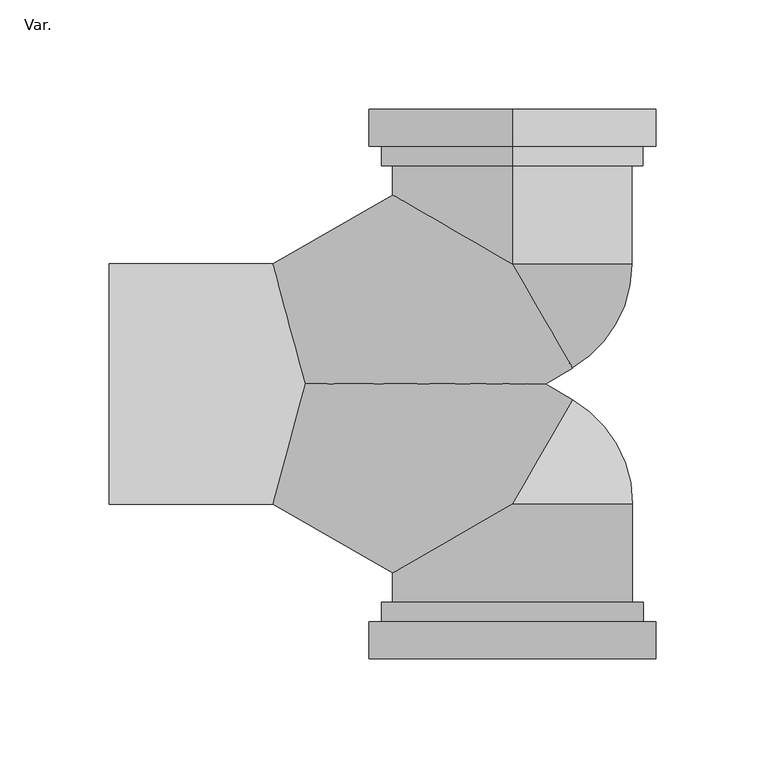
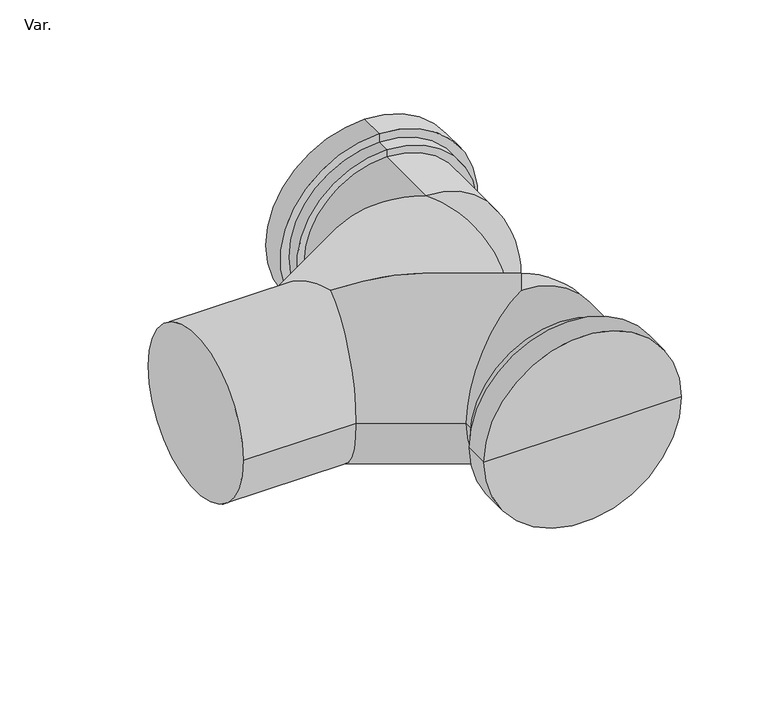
"""IFC4 building model written with IfcOpenShell, lengths in millimetres: pipe fitting geometry, NLRS_52_PIF_UN_HDPE double wall lavatory bend vertical_Akatherm : Var.."""

from ifc_helpers import new_model, si_unit, point, frame, origin, place, context, project, spatial, circle_curve, ellipse_curve, trimmed, source, transform, mapped, element, save
from ifc_brep_helpers import plane_surface, cylinder_surface, revolved_surface, advanced_brep


def var_206d1806(model_context):
    return source(origin(), model_context, "Body", "AdvancedBrep", [
        advanced_brep(
        [(95.0, -54.8482756, 55.0), (122.5, -7.2168784, 0.0), (110.0, 0.0, 0.0), (0.0, 0.0, 55.0), (-14.7372056, -55.0, 0.0), (40.0, -86.6025404, 0.0), (95.0, -54.8482756, -55.0), (0.0, 0.0, -55.0), (150.0, -54.8482756, 0.0), (29.25, -125.9482756, 0.0), (160.75, -125.9482756, 0.0), (95.0, -125.9482756, 0.0), (29.25, -108.9482756, 0.0), (160.75, -108.9482756, 0.0), (35.0, -108.9482756, 0.0), (155.0, -108.9482756, 0.0), (35.0, -99.9482756, 0.0), (155.0, -99.9482756, 0.0), (40.0, -99.9482756, 0.0), (150.0, -99.9482756, 0.0), (122.5, 7.2168784, 0.0), (95.0, 54.8482756, 55.0), (40.0, 86.6025404, 0.0), (-14.7372056, 55.0, 0.0), (95.0, 54.8482756, -55.0), (95.0, 99.9482756, 55.0), (95.0, 99.9482756, -55.0), (95.0, 99.9482756, 60.0), (95.0, 99.9482756, -60.0), (95.0, 108.9482756, 60.0), (95.0, 108.9482756, -60.0), (95.0, 108.9482756, 65.75), (95.0, 108.9482756, -65.75), (95.0, 125.9482756, 65.75), (95.0, 125.9482756, -65.75), (95.0, 125.9482756, 0.0), (-90.0, 55.0, 0.0), (-90.0, -55.0, 0.0)],
        [
            (0, 1, circle_curve(frame((95.0, -54.8482756, 0.0), z_axis=(-0.866025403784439, 0.49999999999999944, 0.0), x_axis=(0.49999999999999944, 0.866025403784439, 0.0)), 55.0)),
            (1, 2),
            (2, 3, ellipse_curve(frame((0.0, 0.0, 0.0), z_axis=(0.0, -1.0, 0.0), x_axis=(-1.0, 0.0, 0.0)), 110.0, 55.0)),
            (3, 4, ellipse_curve(frame((0.0, 0.0, 0.0), z_axis=(0.9659258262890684, -0.25881904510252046, 0.0), x_axis=(0.25881904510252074, 0.9659258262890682, 0.0)), 56.9401899, 55.0)),
            (4, 5),
            (5, 0, ellipse_curve(frame((95.0, -54.8482756, 0.0), z_axis=(-0.5000000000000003, 0.8660254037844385, 0.0), x_axis=(-0.8660254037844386, -0.5000000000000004, 0.0)), 63.5085296, 55.0)),
            (1, 6, circle_curve(frame((95.0, -54.8482756, 0.0), z_axis=(-0.866025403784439, 0.49999999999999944, 0.0), x_axis=(0.49999999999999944, 0.866025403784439, 0.0)), 55.0)),
            (6, 5, ellipse_curve(frame((95.0, -54.8482756, 0.0), z_axis=(-0.5000000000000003, 0.8660254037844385, 0.0), x_axis=(-0.8660254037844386, -0.5000000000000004, 0.0)), 63.5085296, 55.0)),
            (4, 7, ellipse_curve(frame((0.0, 0.0, 0.0), z_axis=(0.9659258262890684, -0.25881904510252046, 0.0), x_axis=(0.25881904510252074, 0.9659258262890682, 0.0)), 56.9401899, 55.0)),
            (7, 2, ellipse_curve(frame((0.0, 0.0, 0.0), z_axis=(0.0, -1.0, 0.0), x_axis=(-1.0, 0.0, 0.0)), 110.0, 55.0)),
            (0, 8, circle_curve(frame((95.0, -54.8482756, 0.0), z_axis=(0.0, 1.0, 0.0), x_axis=(0.0, 0.0, 1.0)), 55.0)),
            (8, 6, circle_curve(frame((95.0, -54.8482756, 0.0), z_axis=(0.0, 1.0, 0.0), x_axis=(0.0, 0.0, 1.0)), 55.0)),
            (9, 10, circle_curve(frame((95.0, -125.9482756, 0.0), z_axis=(0.0, -1.0, 0.0), x_axis=(1.0, 0.0, 0.0)), 65.75)),
            (10, 11),
            (11, 9),
            (10, 9, circle_curve(frame((95.0, -125.9482756, 0.0), z_axis=(0.0, -1.0, 0.0), x_axis=(1.0, 0.0, 0.0)), 65.75)),
            (9, 12),
            (12, 13, circle_curve(frame((95.0, -108.9482756, 0.0), z_axis=(0.0, -1.0, 0.0), x_axis=(1.0, 0.0, 0.0)), 65.75)),
            (13, 10),
            (13, 12, circle_curve(frame((95.0, -108.9482756, 0.0), z_axis=(0.0, -1.0, 0.0), x_axis=(1.0, 0.0, 0.0)), 65.75)),
            (12, 14),
            (14, 15, circle_curve(frame((95.0, -108.9482756, 0.0), z_axis=(0.0, -1.0, 0.0), x_axis=(1.0, 0.0, 0.0)), 60.0)),
            (15, 13),
            (15, 14, circle_curve(frame((95.0, -108.9482756, 0.0), z_axis=(0.0, -1.0, 0.0), x_axis=(1.0, 0.0, 0.0)), 60.0)),
            (14, 16),
            (16, 17, circle_curve(frame((95.0, -99.9482756, 0.0), z_axis=(0.0, -1.0, 0.0), x_axis=(1.0, 0.0, 0.0)), 60.0)),
            (17, 15),
            (17, 16, circle_curve(frame((95.0, -99.9482756, 0.0), z_axis=(0.0, -1.0, 0.0), x_axis=(1.0, 0.0, 0.0)), 60.0)),
            (16, 18),
            (18, 19, circle_curve(frame((95.0, -99.9482756, 0.0), z_axis=(0.0, -1.0, 0.0), x_axis=(1.0, 0.0, 0.0)), 55.0)),
            (19, 17),
            (19, 18, circle_curve(frame((95.0, -99.9482756, 0.0), z_axis=(0.0, -1.0, 0.0), x_axis=(1.0, 0.0, 0.0)), 55.0)),
            (18, 5),
            (8, 19),
            (2, 20),
            (20, 21, circle_curve(frame((95.0, 54.8482756, 0.0), z_axis=(-0.866025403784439, -0.49999999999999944, 0.0), x_axis=(-0.49999999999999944, 0.866025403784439, 0.0)), 55.0)),
            (21, 22, ellipse_curve(frame((95.0, 54.8482756, 0.0), z_axis=(-0.5000000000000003, -0.8660254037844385, 0.0), x_axis=(-0.8660254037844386, 0.5000000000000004, 0.0)), 63.5085296, 55.0)),
            (22, 23),
            (23, 3, ellipse_curve(frame((0.0, 0.0, 0.0), z_axis=(0.9659258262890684, 0.25881904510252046, 0.0), x_axis=(0.25881904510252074, -0.9659258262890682, 0.0)), 56.9401899, 55.0)),
            (7, 23, ellipse_curve(frame((0.0, 0.0, 0.0), z_axis=(0.9659258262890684, 0.25881904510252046, 0.0), x_axis=(0.25881904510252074, -0.9659258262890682, 0.0)), 56.9401899, 55.0)),
            (22, 24, ellipse_curve(frame((95.0, 54.8482756, 0.0), z_axis=(-0.5000000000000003, -0.8660254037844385, 0.0), x_axis=(-0.8660254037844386, 0.5000000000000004, 0.0)), 63.5085296, 55.0)),
            (24, 20, circle_curve(frame((95.0, 54.8482756, 0.0), z_axis=(-0.866025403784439, -0.49999999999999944, 0.0), x_axis=(-0.49999999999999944, 0.866025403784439, 0.0)), 55.0)),
            (24, 21, circle_curve(frame((95.0, 54.8482756, 0.0), z_axis=(0.0, -1.0, 0.0), x_axis=(0.0, 0.0, 1.0)), 55.0)),
            (25, 26, circle_curve(frame((95.0, 99.9482756, 0.0), z_axis=(0.0, -1.0, 0.0), x_axis=(0.0, 0.0, -1.0)), 55.0)),
            (26, 24),
            (21, 25),
            (26, 25, circle_curve(frame((95.0, 99.9482756, 0.0), z_axis=(0.0, -1.0, 0.0), x_axis=(0.0, 0.0, -1.0)), 55.0)),
            (25, 27),
            (27, 28, circle_curve(frame((95.0, 99.9482756, 0.0), z_axis=(0.0, -1.0, 0.0), x_axis=(0.0, 0.0, -1.0)), 60.0)),
            (28, 26),
            (28, 27, circle_curve(frame((95.0, 99.9482756, 0.0), z_axis=(0.0, -1.0, 0.0), x_axis=(0.0, 0.0, -1.0)), 60.0)),
            (27, 29),
            (29, 30, circle_curve(frame((95.0, 108.9482756, 0.0), z_axis=(0.0, -1.0, 0.0), x_axis=(0.0, 0.0, -1.0)), 60.0)),
            (30, 28),
            (30, 29, circle_curve(frame((95.0, 108.9482756, 0.0), z_axis=(0.0, -1.0, 0.0), x_axis=(0.0, 0.0, -1.0)), 60.0)),
            (29, 31),
            (31, 32, circle_curve(frame((95.0, 108.9482756, 0.0), z_axis=(0.0, -1.0, 0.0), x_axis=(0.0, 0.0, -1.0)), 65.75)),
            (32, 30),
            (32, 31, circle_curve(frame((95.0, 108.9482756, 0.0), z_axis=(0.0, -1.0, 0.0), x_axis=(0.0, 0.0, -1.0)), 65.75)),
            (31, 33),
            (33, 34, circle_curve(frame((95.0, 125.9482756, 0.0), z_axis=(0.0, -1.0, 0.0), x_axis=(0.0, 0.0, -1.0)), 65.75)),
            (34, 32),
            (34, 33, circle_curve(frame((95.0, 125.9482756, 0.0), z_axis=(0.0, -1.0, 0.0), x_axis=(0.0, 0.0, -1.0)), 65.75)),
            (33, 35),
            (35, 34),
            (36, 37, circle_curve(frame((-90.0, 0.0, 0.0), z_axis=(-1.0, 0.0, 0.0), x_axis=(0.0, -1.0, 0.0)), 55.0)),
            (37, 36, circle_curve(frame((-90.0, 0.0, 0.0), z_axis=(-1.0, 0.0, 0.0), x_axis=(0.0, -1.0, 0.0)), 55.0)),
            (37, 4),
            (23, 36),
        ],
        [
            cylinder_surface(frame((0.0, 0.0, 0.0), z_axis=(-0.866025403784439, 0.49999999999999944, 0.0), x_axis=(0.49999999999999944, 0.866025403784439, 0.0)), 55.0),
            revolved_surface(trimmed(ellipse_curve(frame((95.0, -54.8482756, 0.0), z_axis=(0.0, 1.0, 0.0), x_axis=(0.0, 0.0, 1.0)), 55.0, 55.0), [point((95.0, -54.8482756, 55.0))], [point((95.0, -54.8482756, -55.0))], True, "CARTESIAN"), (95.0, -54.8482756, -73.5083951), (0.0, 0.0, -1.0)),
            plane_surface(frame((95.0, -125.9482756, 0.0), z_axis=(0.0, -1.0, 0.0), x_axis=(1.0, 0.0, 0.0))),
            cylinder_surface(frame((95.0, -54.8482756, 0.0), z_axis=(0.0, 1.0, 0.0), x_axis=(1.0, 0.0, 0.0)), 65.75),
            plane_surface(frame((95.0, -108.9482756, 0.0), z_axis=(0.0, 1.0, 0.0), x_axis=(1.0, 0.0, 0.0))),
            cylinder_surface(frame((95.0, -54.8482756, 0.0), z_axis=(0.0, 1.0, 0.0), x_axis=(1.0, 0.0, 0.0)), 60.0),
            plane_surface(frame((95.0, -99.9482756, 0.0), z_axis=(0.0, 1.0, 0.0), x_axis=(1.0, 0.0, 0.0))),
            cylinder_surface(frame((95.0, -54.8482756, 0.0), z_axis=(0.0, 1.0, 0.0), x_axis=(1.0, 0.0, 0.0)), 55.0),
            cylinder_surface(frame((0.0, 0.0, 0.0), z_axis=(-0.866025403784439, -0.49999999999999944, 0.0), x_axis=(-0.49999999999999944, 0.866025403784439, 0.0)), 55.0),
            revolved_surface(trimmed(ellipse_curve(frame((95.0, 54.8482756, 0.0), z_axis=(0.0, -1.0, 0.0), x_axis=(0.0, 0.0, 1.0)), 55.0, 55.0), [point((95.0, 54.8482756, -55.0))], [point((95.0, 54.8482756, 55.0))], True, "CARTESIAN"), (95.0, 54.8482756, -78.0406927), (0.0, 0.0, 1.0)),
            cylinder_surface(frame((95.0, 54.8482756, 0.0), z_axis=(0.0, 1.0, 0.0), x_axis=(0.0, 0.0, -1.0)), 55.0),
            plane_surface(frame((95.0, 99.9482756, 0.0), z_axis=(0.0, -1.0, 0.0), x_axis=(0.0, 0.0, -1.0))),
            cylinder_surface(frame((95.0, 54.8482756, 0.0), z_axis=(0.0, 1.0, 0.0), x_axis=(0.0, 0.0, -1.0)), 60.0),
            plane_surface(frame((95.0, 108.9482756, 0.0), z_axis=(0.0, -1.0, 0.0), x_axis=(0.0, 0.0, -1.0))),
            cylinder_surface(frame((95.0, 54.8482756, 0.0), z_axis=(0.0, 1.0, 0.0), x_axis=(0.0, 0.0, -1.0)), 65.75),
            plane_surface(frame((95.0, 125.9482756, 0.0), z_axis=(0.0, 1.0, 0.0), x_axis=(0.0, 0.0, -1.0))),
            plane_surface(frame((-90.0, 0.0, 0.0), z_axis=(-1.0, 0.0, 0.0), x_axis=(0.0, 0.0, 1.0))),
            cylinder_surface(frame((0.0, 0.0, 0.0), z_axis=(1.0, 0.0, 0.0), x_axis=(0.0, -1.0, 0.0)), 55.0),
        ],
        [
            (0, [[1, 2, 3, 4, 5, 6]]),
            (0, [[7, 8, -5, 9, 10, -2]]),
            (1, [[-1, 11, 12, -7]]),
            (2, [[13, 14, 15]]),
            (2, [[-14, 16, -15]]),
            (3, [[-13, 17, 18, 19]]),
            (3, [[-16, -19, 20, -17]]),
            (4, [[-18, 21, 22, 23]]),
            (4, [[-20, -23, 24, -21]]),
            (5, [[-22, 25, 26, 27]]),
            (5, [[-24, -27, 28, -25]]),
            (6, [[-26, 29, 30, 31]]),
            (6, [[-28, -31, 32, -29]]),
            (7, [[-30, 33, -8, -12, 34]]),
            (7, [[-32, -34, -11, -6, -33]]),
            (8, [[35, 36, 37, 38, 39, -3]]),
            (8, [[-35, -10, 40, -38, 41, 42]]),
            (9, [[-36, -42, 43]]),
            (10, [[44, 45, -41, -37, 46]]),
            (10, [[-45, 47, -46, -43]]),
            (11, [[-44, 48, 49, 50]]),
            (11, [[-47, -50, 51, -48]]),
            (12, [[-49, 52, 53, 54]]),
            (12, [[-51, -54, 55, -52]]),
            (13, [[-53, 56, 57, 58]]),
            (13, [[-55, -58, 59, -56]]),
            (14, [[-57, 60, 61, 62]]),
            (14, [[-59, -62, 63, -60]]),
            (15, [[-61, 64, 65]]),
            (15, [[-63, -65, -64]]),
            (16, [[66, 67]]),
            (17, [[-67, 68, -4, -39, 69]]),
            (17, [[-66, -69, -40, -9, -68]]),
        ],
    ),
    ])


if __name__ == "__main__":
    model = new_model("IFC4")
    model_context = context("Model", 3, world=origin())
    ifc_project = project(units=[si_unit("LENGTHUNIT", "METRE", prefix="MILLI")], contexts=[model_context])
    site = spatial("IfcSite", under=ifc_project)
    building = spatial("IfcBuilding", under=site)
    placement = place(None, origin())
    var_shape = var_206d1806(model_context)
    element("IfcPipeFitting", 1, ObjectType="NLRS_52_PIF_UN_HDPE double wall lavatory bend vertical_Akatherm : Var.", at=placement, inside=building, context=model_context, shape_type="MappedRepresentation", body=[
        mapped(var_shape, transform((0.0, 0.0, 0.0), x_axis=(1.0, 0.0, 0.0), y_axis=(0.0, 1.0, 0.0), z_axis=(0.0, 0.0, 1.0))),
    ])
    save(model, "model.ifc")
